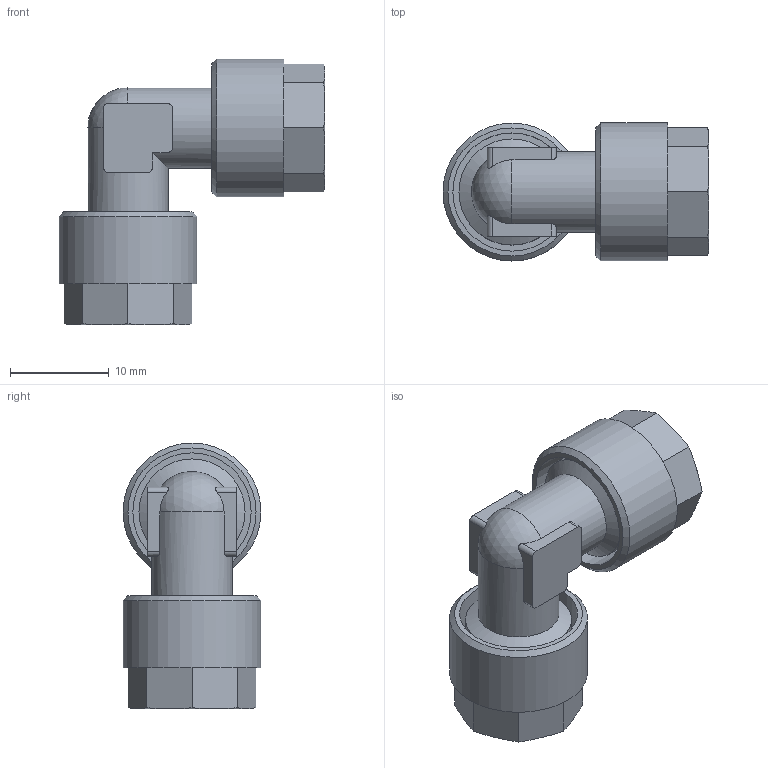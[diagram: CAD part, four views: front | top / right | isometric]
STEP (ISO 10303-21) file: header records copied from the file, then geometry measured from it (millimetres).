
FILE_DESCRIPTION(/* description */ (''),/* implementation_level */ '2;1');
FILE_NAME(/* name */ '11305_306_8-6_10.03.16',/* time_stamp */ '2016-03-10T11:21:01+01:00',/* author */ (''),/* organization */ (''),/* preprocessor_version */ 'ST-DEVELOPER v14',/* originating_system */ 'HiCAD 2013 1802.4 Build 509',/* authorisation */ '');
FILE_SCHEMA (('AUTOMOTIVE_DESIGN { 1 0 10303 214 1 1 1 1 }'));
Length unit declared in the file: millimetre
Products named in the file (4): Root; R11305; 17006
Assembly tree (3 placements, depth 2):
  Root
    R11305
    17006
    17006
Bounding box: 27 x 14 x 27 mm (x, y, z)
Volume: 2820.3 mm3; surface area: 3977.6 mm2
Topology: 3 solids, 3 shells, 111 faces, 263 edges, 168 vertices
Faces by surface type: plane 44, cone 34, cylinder 30, torus 2, sphere 1
Full cylindrical faces by diameter (mm): 5 x2, 6.5 x2, 8 x2, 8.2 x2, 10.773 x4, 12 x2, 14 x2
Entity records: 8774 total; most frequent: CARTESIAN_POINT 4134, DIRECTION 552, PRESENTATION_STYLE_ASSIGNMENT 437, COLOUR_RGB 435, DRAUGHTING_PRE_DEFINED_CURVE_FONT 434, CURVE_STYLE 434, OVER_RIDING_STYLED_ITEM 434, ORIENTED_EDGE 434
